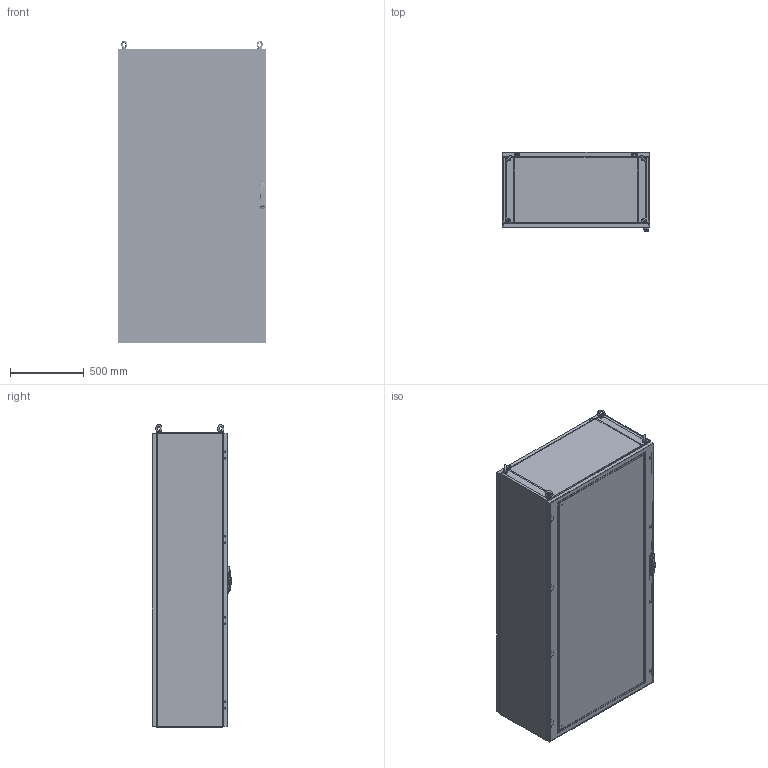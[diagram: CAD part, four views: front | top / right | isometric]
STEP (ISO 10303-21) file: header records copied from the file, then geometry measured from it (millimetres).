
FILE_DESCRIPTION(/* description */ ('Unknown'),/* implementation_level */ '2;1');
FILE_NAME(/* name */ 'FCA10020050',/* time_stamp */ '2024-12-13T10:18:46+01:00',/* author */ ('Unknown'),/* organization */ ('Unknown'),/* preprocessor_version */ 'ST-DEVELOPER v19.4',/* originating_system */ 'Solid Edge',/* authorisation */ 'Unknown');
FILE_SCHEMA (('CONFIG_CONTROL_DESIGN'));
Length unit declared in the file: millimetre
Products named in the file (60): FCA10020050; F000X000.23; F0000000.04; F000X000.25; F0000000.26; F0000000.03; F0000000.02; F000X000.24; F0000000.25; AE00500.10; AE00715.01; F000X000.26; F000X000.27; F0000000.27; F0000000.07; AE00100.03_oa_0; AE00100.03_oa_1; AE00100.03_oa_2; AE00100.03_oa_3; F000X000.12_oa_4; F000X000.17_oa_5; F0000000.20; 38790003.14_oa_6; F000X000.18; F0000000.21; 38790003.14_oa_7; F000X000.19_oa_8; AE00217.25; AE00309.01; F000X000.20_oa_9; AE00368.00; AE00219.00; AE00224.00; M0000000.37; AE00198.03; AE00219.03; F0000001.24; AE00701.03; F0000000.13; F0000000.08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
Assembly tree (209 placements, depth 5):
  FCA10020050
    F000X000.23
      F0000000.04  x2
      F000X000.25
        F0000000.26
        F0000000.03  x2
        F0000000.02  x4
      F000X000.24
        F0000000.25
        F0000000.03  x2
        F0000000.02  x4
      AE00500.10  x32
    AE00715.01  x4
    F000X000.26
      F000X000.27
        F0000000.27
      F0000000.07  x2
      AE00100.03_oa_0
      AE00100.03_oa_1
      AE00100.03_oa_2
      AE00100.03_oa_3
    F000X000.12_oa_4
      F000X000.17_oa_5
        F0000000.20
        38790003.14_oa_6
      F000X000.18
        F0000000.21
        38790003.14_oa_7
      F000X000.19_oa_8
        F0000000.21
        AE00217.25
        AE00309.01
      F000X000.20_oa_9
        F0000000.20
        AE00217.25
        AE00309.01
      AE00368.00  x8
      AE00219.00  x8
      AE00224.00  x2
    M0000000.37  x8
    AE00198.03  x16
    AE00219.03  x8
    F0000001.24  x4
    AE00701.03  x4
    F0000000.13  x4
    F0000000.08  x4
    F000X000.28
      F000X000.29
        F000X000.30
          F0000000.28
        F000X000.31
          F0000002.22  x2
          F0000002.18  x2
          AE01400.01  x4
        AE00413.05  x4
        AE00417.01  x2
      F0000000.12  x8
      AE00222.15  x8
      AE00316.01  x8
      AE00992.10_oa_10
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Bounding box: 1000.5 x 538.7 x 2057.48 mm (x, y, z)
Volume: 19334909.3 mm3; surface area: 16136796.1 mm2
Topology: 214 solids, 214 shells, 6245 faces, 16534 edges, 10737 vertices
Faces by surface type: plane 3830, cylinder 1741, cone 446, sphere 136, torus 78, bspline 14
Full cylindrical faces by diameter (mm): 2 x4, 3 x1, 3.242 x2, 4 x12, 4.134 x5, 4.25 x214, 4.5 x212, 4.917 x57, 4.918 x8, 5 x6, 6 x66, 6.1 x20, 6.2 x8, 6.5 x28, 6.647 x4, 7.5 x2, 7.8 x2, 8 x8, 8.25 x4, 8.3 x8, 8.5 x2, 9 x32, 10 x2, 10.106 x8, 10.5 x24, 11.8 x8, 12 x24, 14 x1, 16 x1, 17 x3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
Entity records: 53680 total; most frequent: CARTESIAN_POINT 9317, DIRECTION 8281, ORIENTED_EDGE 7706, EDGE_CURVE 3853, AXIS2_PLACEMENT_3D 2795, VERTEX_POINT 2709, LINE 2691, VECTOR 2691
